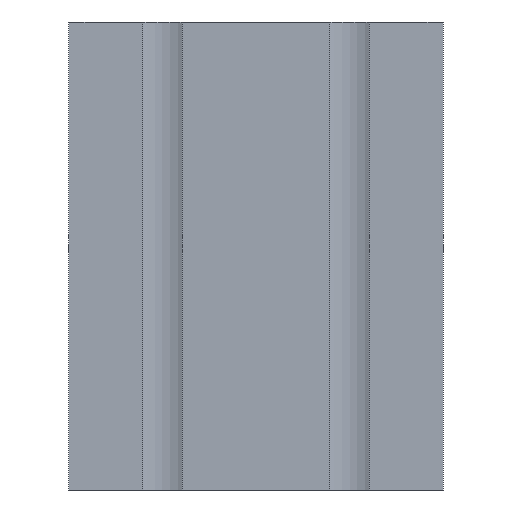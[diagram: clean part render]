
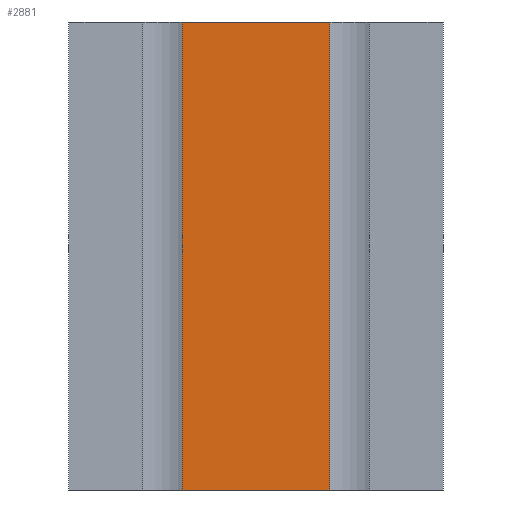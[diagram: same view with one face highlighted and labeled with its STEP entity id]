
A CAD part, front view. The second image highlights one B-rep face of the part: STEP entity #2881.
In plain terms, the highlighted planar face has unit normal (0, -1, 0).
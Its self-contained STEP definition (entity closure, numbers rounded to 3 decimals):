
#95=PLANE('',#3100);
#322=LINE('',#4482,#662);
#340=LINE('',#4523,#680);
#412=LINE('',#4680,#752);
#413=LINE('',#4681,#753);
#662=VECTOR('',#3617,1000.);
#680=VECTOR('',#3651,1000.);
#752=VECTOR('',#3787,1000.);
#753=VECTOR('',#3788,1000.);
#1230=ORIENTED_EDGE('',*,*,#1996,.T.);
#1231=ORIENTED_EDGE('',*,*,#1898,.F.);
#1232=ORIENTED_EDGE('',*,*,#1997,.F.);
#1233=ORIENTED_EDGE('',*,*,#1918,.F.);
#1898=EDGE_CURVE('',#2274,#2275,#322,.T.);
#1918=EDGE_CURVE('',#2288,#2289,#340,.T.);
#1996=EDGE_CURVE('',#2288,#2275,#412,.T.);
#1997=EDGE_CURVE('',#2289,#2274,#413,.T.);
#2274=VERTEX_POINT('',#4483);
#2275=VERTEX_POINT('',#4484);
#2288=VERTEX_POINT('',#4522);
#2289=VERTEX_POINT('',#4524);
#2529=EDGE_LOOP('',(#1230,#1231,#1232,#1233));
#2685=FACE_BOUND('',#2529,.T.);
#2881=ADVANCED_FACE('',(#2685),#95,.F.);
#3100=AXIS2_PLACEMENT_3D('',#4679,#3785,#3786);
#3617=DIRECTION('',(0.,0.,-1.));
#3651=DIRECTION('',(0.,0.,1.));
#3785=DIRECTION('',(0.,1.,0.));
#3786=DIRECTION('',(-1.,0.,0.));
#3787=DIRECTION('',(1.,0.,0.));
#3788=DIRECTION('',(1.,0.,0.));
#4482=CARTESIAN_POINT('',(15.8,-20.,50.));
#4483=CARTESIAN_POINT('',(15.8,-20.,50.));
#4484=CARTESIAN_POINT('',(15.8,-20.,-50.));
#4522=CARTESIAN_POINT('',(-15.8,-20.,-50.));
#4523=CARTESIAN_POINT('',(-15.8,-20.,50.));
#4524=CARTESIAN_POINT('',(-15.8,-20.,50.));
#4679=CARTESIAN_POINT('',(-40.,-20.,50.));
#4680=CARTESIAN_POINT('',(-40.,-20.,-50.));
#4681=CARTESIAN_POINT('',(-40.,-20.,50.));
